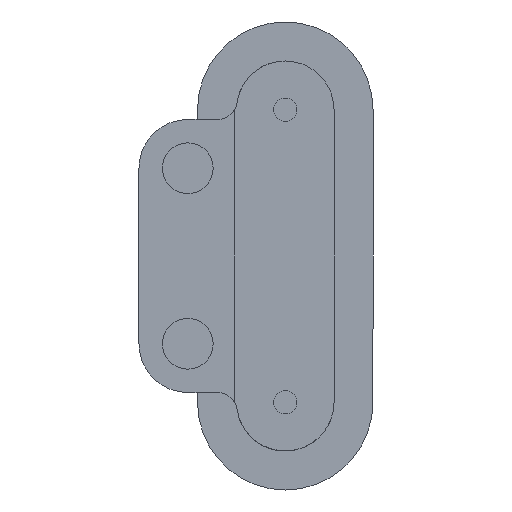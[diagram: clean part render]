
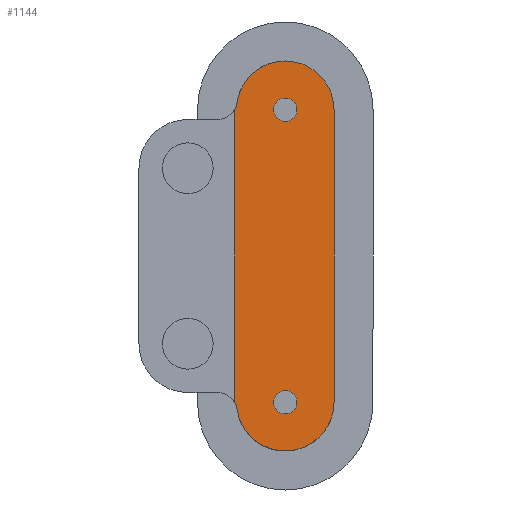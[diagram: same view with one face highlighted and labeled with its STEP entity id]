
A CAD part, front view. The second image highlights one B-rep face of the part: STEP entity #1144.
In plain terms, the highlighted planar face has unit normal (0, -1, 0).
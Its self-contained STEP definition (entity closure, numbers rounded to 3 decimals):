
#8 = EDGE_CURVE ( 'NONE', #45, #1015, #888, .T. ) ;
#18 = EDGE_CURVE ( 'NONE', #1201, #743, #358, .T. ) ;
#19 = DIRECTION ( 'NONE',  ( 0., 0., 1. ) ) ;
#22 = DIRECTION ( 'NONE',  ( 0., 0., 1. ) ) ;
#25 = ORIENTED_EDGE ( 'NONE', *, *, #8, .F. ) ;
#41 = FACE_OUTER_BOUND ( 'NONE', #595, .T. ) ;
#45 = VERTEX_POINT ( 'NONE', #771 ) ;
#54 = CIRCLE ( 'NONE', #729, 2. ) ;
#73 = DIRECTION ( 'NONE',  ( 0., 0., -1. ) ) ;
#82 = ORIENTED_EDGE ( 'NONE', *, *, #625, .F. ) ;
#106 = EDGE_CURVE ( 'NONE', #400, #737, #134, .T. ) ;
#113 = CARTESIAN_POINT ( 'NONE',  ( 0., 3., -15. ) ) ;
#123 = DIRECTION ( 'NONE',  ( 0., 0., -1. ) ) ;
#126 = DIRECTION ( 'NONE',  ( 0., -1., 0. ) ) ;
#134 = CIRCLE ( 'NONE', #634, 1.2 ) ;
#141 = VERTEX_POINT ( 'NONE', #1054 ) ;
#176 = VERTEX_POINT ( 'NONE', #199 ) ;
#199 = CARTESIAN_POINT ( 'NONE',  ( 0., 3., 20. ) ) ;
#238 = ORIENTED_EDGE ( 'NONE', *, *, #1071, .T. ) ;
#245 = CARTESIAN_POINT ( 'NONE',  ( 0., 3., -15. ) ) ;
#254 = AXIS2_PLACEMENT_3D ( 'NONE', #875, #493, #19 ) ;
#275 = CARTESIAN_POINT ( 'NONE',  ( 0., 3., 15. ) ) ;
#282 = DIRECTION ( 'NONE',  ( 0., -1., 0. ) ) ;
#286 = CARTESIAN_POINT ( 'NONE',  ( 0., 3., 15. ) ) ;
#297 = CARTESIAN_POINT ( 'NONE',  ( 0., 3., 15. ) ) ;
#305 = CARTESIAN_POINT ( 'NONE',  ( -5.2, 3., 14.993 ) ) ;
#311 = CIRCLE ( 'NONE', #917, 1.2 ) ;
#336 = AXIS2_PLACEMENT_3D ( 'NONE', #275, #639, #73 ) ;
#358 = LINE ( 'NONE', #1044, #970 ) ;
#371 = CARTESIAN_POINT ( 'NONE',  ( 0., 3., 16.2 ) ) ;
#379 = DIRECTION ( 'NONE',  ( 0., 0., 1. ) ) ;
#400 = VERTEX_POINT ( 'NONE', #371 ) ;
#401 = DIRECTION ( 'NONE',  ( 0., -1., 0. ) ) ;
#403 = CIRCLE ( 'NONE', #336, 5. ) ;
#406 = LINE ( 'NONE', #786, #1017 ) ;
#427 = AXIS2_PLACEMENT_3D ( 'NONE', #113, #282, #945 ) ;
#440 = DIRECTION ( 'NONE',  ( 0., 0., -1. ) ) ;
#441 = DIRECTION ( 'NONE',  ( 0., 1., 0. ) ) ;
#463 = CARTESIAN_POINT ( 'NONE',  ( -6.928, 3., 16. ) ) ;
#481 = DIRECTION ( 'NONE',  ( 0., -1., 0. ) ) ;
#483 = VERTEX_POINT ( 'NONE', #551 ) ;
#493 = DIRECTION ( 'NONE',  ( 0., 1., 0. ) ) ;
#519 = VERTEX_POINT ( 'NONE', #741 ) ;
#530 = DIRECTION ( 'NONE',  ( 0., 0., 1. ) ) ;
#549 = ORIENTED_EDGE ( 'NONE', *, *, #713, .T. ) ;
#551 = CARTESIAN_POINT ( 'NONE',  ( -4.949, 3., -15.714 ) ) ;
#552 = AXIS2_PLACEMENT_3D ( 'NONE', #245, #982, #440 ) ;
#556 = FACE_BOUND ( 'NONE', #1110, .T. ) ;
#564 = AXIS2_PLACEMENT_3D ( 'NONE', #754, #918, #613 ) ;
#588 = ORIENTED_EDGE ( 'NONE', *, *, #647, .F. ) ;
#595 = EDGE_LOOP ( 'NONE', ( #829, #1028, #1151, #775, #549, #238, #809 ) ) ;
#613 = DIRECTION ( 'NONE',  ( 0., 0., -1. ) ) ;
#625 = EDGE_CURVE ( 'NONE', #737, #400, #311, .T. ) ;
#634 = AXIS2_PLACEMENT_3D ( 'NONE', #297, #401, #1153 ) ;
#639 = DIRECTION ( 'NONE',  ( 0., -1., 0. ) ) ;
#647 = EDGE_CURVE ( 'NONE', #1015, #45, #924, .T. ) ;
#661 = ORIENTED_EDGE ( 'NONE', *, *, #106, .F. ) ;
#677 = CIRCLE ( 'NONE', #1191, 2. ) ;
#713 = EDGE_CURVE ( 'NONE', #1201, #483, #677, .T. ) ;
#729 = AXIS2_PLACEMENT_3D ( 'NONE', #463, #835, #379 ) ;
#737 = VERTEX_POINT ( 'NONE', #959 ) ;
#741 = CARTESIAN_POINT ( 'NONE',  ( 5., 3., 15. ) ) ;
#742 = EDGE_CURVE ( 'NONE', #141, #519, #406, .T. ) ;
#743 = VERTEX_POINT ( 'NONE', #305 ) ;
#754 = CARTESIAN_POINT ( 'NONE',  ( 0., 3., 15. ) ) ;
#768 = DIRECTION ( 'NONE',  ( 0., 0., 1. ) ) ;
#771 = CARTESIAN_POINT ( 'NONE',  ( 0., 3., -13.8 ) ) ;
#775 = ORIENTED_EDGE ( 'NONE', *, *, #18, .F. ) ;
#777 = CIRCLE ( 'NONE', #564, 5. ) ;
#786 = CARTESIAN_POINT ( 'NONE',  ( 5., 3., -15. ) ) ;
#809 = ORIENTED_EDGE ( 'NONE', *, *, #742, .T. ) ;
#829 = ORIENTED_EDGE ( 'NONE', *, *, #1032, .T. ) ;
#835 = DIRECTION ( 'NONE',  ( 0., 1., 0. ) ) ;
#857 = DIRECTION ( 'NONE',  ( 0., 0., -1. ) ) ;
#875 = CARTESIAN_POINT ( 'NONE',  ( 0., 3., -15. ) ) ;
#882 = CARTESIAN_POINT ( 'NONE',  ( 0., 3., -15. ) ) ;
#884 = EDGE_LOOP ( 'NONE', ( #82, #661 ) ) ;
#888 = CIRCLE ( 'NONE', #552, 1.2 ) ;
#907 = AXIS2_PLACEMENT_3D ( 'NONE', #882, #126, #123 ) ;
#917 = AXIS2_PLACEMENT_3D ( 'NONE', #286, #481, #857 ) ;
#918 = DIRECTION ( 'NONE',  ( 0., -1., 0. ) ) ;
#924 = CIRCLE ( 'NONE', #427, 1.2 ) ;
#942 = EDGE_CURVE ( 'NONE', #1177, #743, #54, .T. ) ;
#945 = DIRECTION ( 'NONE',  ( 0., 0., -1. ) ) ;
#956 = EDGE_CURVE ( 'NONE', #176, #1177, #403, .T. ) ;
#959 = CARTESIAN_POINT ( 'NONE',  ( 0., 3., 13.8 ) ) ;
#960 = PLANE ( 'NONE',  #254 ) ;
#970 = VECTOR ( 'NONE', #768, 1000. ) ;
#982 = DIRECTION ( 'NONE',  ( 0., -1., 0. ) ) ;
#987 = FACE_BOUND ( 'NONE', #884, .T. ) ;
#1015 = VERTEX_POINT ( 'NONE', #1025 ) ;
#1017 = VECTOR ( 'NONE', #530, 1000. ) ;
#1025 = CARTESIAN_POINT ( 'NONE',  ( 0., 3., -16.2 ) ) ;
#1028 = ORIENTED_EDGE ( 'NONE', *, *, #956, .T. ) ;
#1032 = EDGE_CURVE ( 'NONE', #519, #176, #777, .T. ) ;
#1044 = CARTESIAN_POINT ( 'NONE',  ( -5.2, 3., 14. ) ) ;
#1054 = CARTESIAN_POINT ( 'NONE',  ( 5., 3., -15. ) ) ;
#1056 = CARTESIAN_POINT ( 'NONE',  ( -6.928, 3., -16. ) ) ;
#1062 = CARTESIAN_POINT ( 'NONE',  ( -5.2, 3., -14.993 ) ) ;
#1071 = EDGE_CURVE ( 'NONE', #483, #141, #1080, .T. ) ;
#1080 = CIRCLE ( 'NONE', #907, 5. ) ;
#1110 = EDGE_LOOP ( 'NONE', ( #588, #25 ) ) ;
#1130 = CARTESIAN_POINT ( 'NONE',  ( -4.949, 3., 15.714 ) ) ;
#1144 = ADVANCED_FACE ( 'NONE', ( #556, #987, #41 ), #960, .F. ) ;
#1151 = ORIENTED_EDGE ( 'NONE', *, *, #942, .T. ) ;
#1153 = DIRECTION ( 'NONE',  ( 0., 0., -1. ) ) ;
#1177 = VERTEX_POINT ( 'NONE', #1130 ) ;
#1191 = AXIS2_PLACEMENT_3D ( 'NONE', #1056, #441, #22 ) ;
#1201 = VERTEX_POINT ( 'NONE', #1062 ) ;
